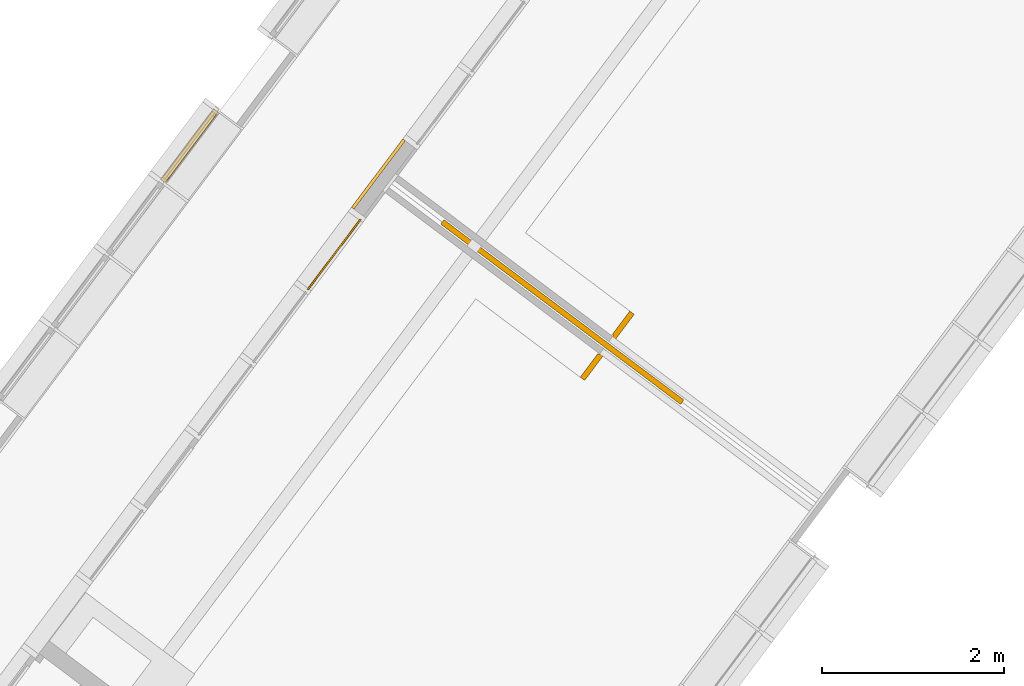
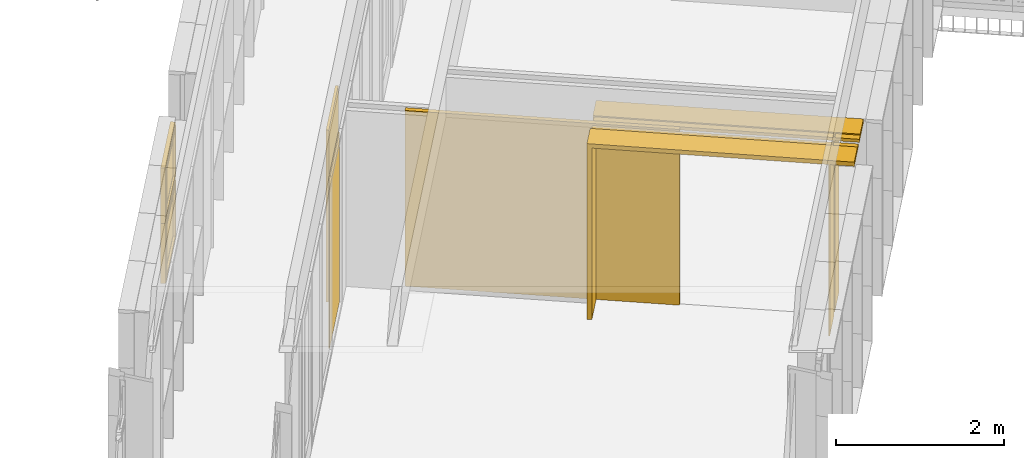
# One storey, part 190 of 243: 3 windows, 1 curtain wall, 1 door, 2 elements without a shape of their own.
"""IFC2X3 building model written with IfcOpenShell, lengths in metres."""

from ifc_helpers import new_model, entity, si_unit, converted_unit, derived_unit, direction, frame, frame_2d, origin, origin_2d_with_axis, place, context, subcontext, project, spatial, rectangle, extrude, faceted_brep, source, transform, mapped, material, material_list, layer, layer_set, layer_usage, type_object, type_shapes, element, aggregate, save


model = new_model("IFC2X3")

# Units and contexts
model_context = context("Model", 3, precision=1e-05, world=origin(), true_north=direction((6.123031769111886e-17, 1.0)))
body_context = subcontext(model_context, "Body", "Model", "MODEL_VIEW")
ifc_project = project(units=[si_unit("LENGTHUNIT", "METRE"), si_unit("AREAUNIT", "SQUARE_METRE"), si_unit("VOLUMEUNIT", "CUBIC_METRE"), converted_unit("PLANEANGLEUNIT", "DEGREE", entity("IfcRatioMeasure", 0.017453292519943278), si_unit("PLANEANGLEUNIT", "RADIAN"), dimensions=[0, 0, 0, 0, 0, 0, 0]), si_unit("MASSUNIT", "GRAM", prefix="KILO"), derived_unit("MASSDENSITYUNIT", [(si_unit("MASSUNIT", "GRAM", prefix="KILO"), 1), (si_unit("LENGTHUNIT", "METRE"), -3)]), derived_unit("IONCONCENTRATIONUNIT", [(si_unit("MASSUNIT", "GRAM", prefix="KILO"), 1), (si_unit("LENGTHUNIT", "METRE"), -3)]), derived_unit("MOMENTOFINERTIAUNIT", [(si_unit("LENGTHUNIT", "METRE"), 4)]), si_unit("TIMEUNIT", "SECOND"), si_unit("FREQUENCYUNIT", "HERTZ"), si_unit("THERMODYNAMICTEMPERATUREUNIT", "DEGREE_CELSIUS"), derived_unit("THERMALTRANSMITTANCEUNIT", [(si_unit("MASSUNIT", "GRAM", prefix="KILO"), 1), (si_unit("THERMODYNAMICTEMPERATUREUNIT", "KELVIN"), -1), (si_unit("TIMEUNIT", "SECOND"), -3)]), derived_unit("THERMALCONDUCTANCEUNIT", [(si_unit("MASSUNIT", "GRAM", prefix="KILO"), 1), (si_unit("THERMODYNAMICTEMPERATUREUNIT", "KELVIN"), -1), (si_unit("TIMEUNIT", "SECOND"), -3), (si_unit("LENGTHUNIT", "METRE"), 1)]), derived_unit("VOLUMETRICFLOWRATEUNIT", [(si_unit("LENGTHUNIT", "METRE"), 3), (si_unit("TIMEUNIT", "SECOND"), -1)]), derived_unit("MASSFLOWRATEUNIT", [(si_unit("MASSUNIT", "GRAM", prefix="KILO"), 1), (si_unit("TIMEUNIT", "SECOND"), -1)]), derived_unit("ROTATIONALFREQUENCYUNIT", [(si_unit("TIMEUNIT", "SECOND"), -1)]), si_unit("ELECTRICCURRENTUNIT", "AMPERE"), si_unit("ELECTRICVOLTAGEUNIT", "VOLT"), si_unit("POWERUNIT", "WATT"), si_unit("FORCEUNIT", "NEWTON", prefix="KILO"), si_unit("ILLUMINANCEUNIT", "LUX"), si_unit("LUMINOUSFLUXUNIT", "LUMEN"), si_unit("LUMINOUSINTENSITYUNIT", "CANDELA"), derived_unit("USERDEFINED", [(si_unit("MASSUNIT", "GRAM", prefix="KILO"), -1), (si_unit("LENGTHUNIT", "METRE"), -2), (si_unit("TIMEUNIT", "SECOND"), 3), (si_unit("LUMINOUSFLUXUNIT", "LUMEN"), 1)]), derived_unit("USERDEFINED", [(si_unit("MASSUNIT", "GRAM", prefix="KILO"), 1), (si_unit("TIMEUNIT", "SECOND"), -3), (si_unit("LENGTHUNIT", "METRE"), 3), (si_unit("ELECTRICCURRENTUNIT", "AMPERE"), -2)]), derived_unit("SOUNDPOWERUNIT", [(si_unit("MASSUNIT", "GRAM", prefix="KILO"), 1), (si_unit("TIMEUNIT", "SECOND"), -3), (si_unit("LENGTHUNIT", "METRE"), 2)]), derived_unit("SOUNDPRESSUREUNIT", [(si_unit("MASSUNIT", "GRAM", prefix="KILO"), 1), (si_unit("LENGTHUNIT", "METRE"), -1), (si_unit("TIMEUNIT", "SECOND"), -2)]), derived_unit("LINEARVELOCITYUNIT", [(si_unit("LENGTHUNIT", "METRE"), 1), (si_unit("TIMEUNIT", "SECOND"), -1)]), si_unit("PRESSUREUNIT", "PASCAL"), derived_unit("USERDEFINED", [(si_unit("MASSUNIT", "GRAM", prefix="KILO"), 1), (si_unit("LENGTHUNIT", "METRE"), -2), (si_unit("TIMEUNIT", "SECOND"), -2)]), derived_unit("LINEARFORCEUNIT", [(si_unit("MASSUNIT", "GRAM", prefix="KILO"), 1), (si_unit("TIMEUNIT", "SECOND"), -2)]), derived_unit("PLANARFORCEUNIT", [(si_unit("MASSUNIT", "GRAM", prefix="KILO"), 1), (si_unit("LENGTHUNIT", "METRE"), -1), (si_unit("TIMEUNIT", "SECOND"), -2)]), derived_unit("SPECIFICHEATCAPACITYUNIT", [(si_unit("THERMODYNAMICTEMPERATUREUNIT", "KELVIN"), -1), (si_unit("LENGTHUNIT", "METRE"), 2), (si_unit("TIMEUNIT", "SECOND"), -2)]), derived_unit("HEATINGVALUEUNIT", [(si_unit("LENGTHUNIT", "METRE"), 2), (si_unit("TIMEUNIT", "SECOND"), -2)]), derived_unit("VAPORPERMEABILITYUNIT", [(si_unit("LENGTHUNIT", "METRE"), -1), (si_unit("TIMEUNIT", "SECOND"), 1)]), derived_unit("DYNAMICVISCOSITYUNIT", [(si_unit("MASSUNIT", "GRAM", prefix="KILO"), 1), (si_unit("TIMEUNIT", "SECOND"), -1), (si_unit("LENGTHUNIT", "METRE"), -1)]), derived_unit("THERMALEXPANSIONCOEFFICIENTUNIT", [(si_unit("THERMODYNAMICTEMPERATUREUNIT", "KELVIN"), -1)]), derived_unit("MODULUSOFELASTICITYUNIT", [(si_unit("MASSUNIT", "GRAM", prefix="KILO"), 1), (si_unit("LENGTHUNIT", "METRE"), -1), (si_unit("TIMEUNIT", "SECOND"), -2)]), derived_unit("ISOTHERMALMOISTURECAPACITYUNIT", [(si_unit("LENGTHUNIT", "METRE"), 3), (si_unit("MASSUNIT", "GRAM", prefix="KILO"), -1)]), derived_unit("MOISTUREDIFFUSIVITYUNIT", [(si_unit("TIMEUNIT", "SECOND"), -1), (si_unit("LENGTHUNIT", "METRE"), 2)])], contexts=[model_context])

# Site, building, storey
site_placement = place(None, frame((0.0, 0.0, 235.0), z_axis=(0.0, 0.0, 1.0), x_axis=(-0.7996477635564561, 0.6004693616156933, 0.0)))
site = spatial("IfcSite", under=ifc_project, at=site_placement, Name="Default", CompositionType="ELEMENT")
building_placement = place(site_placement, origin())
building = spatial("IfcBuilding", under=site, at=building_placement, CompositionType="ELEMENT")
storey_placement = place(building_placement, origin())
storey = spatial("IfcBuildingStorey", under=building, at=storey_placement, Name="P0- Escola", CompositionType="ELEMENT", Elevation=0.0)

# Curtain walls, window
curtain_wall_type_1 = type_object("IfcCurtainWallType", Name="Muro cortina:MC- INT- a1", PredefinedType="NOTDEFINED")
curtain_wall_1_placement = place(storey_placement, origin())
curtain_wall_1 = element("IfcCurtainWall", 1, at=curtain_wall_1_placement, inside=storey, type_object=curtain_wall_type_1, Name="Muro cortina:MC- INT- a1", ObjectType="Muro cortina:MC- INT- a1")
ifc_material_1 = material(Name="_Fusta massisa- T1-  REV- PAV")
ifc_layer_1 = layer(ifc_material_1, 0.015)
ifc_material_2 = material(Name="_Genèric perfils, muntants, rastrells")
ifc_layer_2 = layer(ifc_material_2, 0.02)
ifc_layer_set = layer_set([ifc_layer_1, ifc_layer_2], Name="Muro básico:REV- Fusta- T1- 3,5 cm")
ifc_layer_usage = layer_usage(ifc_layer_set, "AXIS2", "NEGATIVE", 0.0175)
curtain_wall_type_2 = type_object("IfcCurtainWallType", Name="Muro básico:REV- Fusta- T1- 3,5 cm", PredefinedType="NOTDEFINED", material=ifc_layer_set)
curtain_wall_2_placement = place(storey_placement, frame((47.46264768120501, -29.445189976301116, 0.0), z_axis=(0.0, 0.0, 1.0), x_axis=(0.0, -1.0, 0.0)))
curtain_wall_2 = element("IfcCurtainWall", 2, at=curtain_wall_2_placement, type_object=curtain_wall_type_2, material=ifc_layer_usage, Name="Muro básico:REV- Fusta- T1- 3,5 cm", ObjectType="Muro básico:REV- Fusta- T1- 3,5 cm", context=body_context, shape_type="SweptSolid", body=[
    extrude(rectangle(XDim=0.03500000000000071, YDim=0.9399999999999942, at=frame_2d((-4.331604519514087e-15, 0.0), x_axis=(1.0, 0.0))), frame((0.4699999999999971, 0.0, 0.0), z_axis=(0.0, 0.0, 1.0), x_axis=(0.0, 1.0, 0.0)), (0.0, 0.0, 1.0), 2.5050000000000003),
])
ifc_material_3 = material(Name="_Vidre")
window_style_1 = type_object("IfcWindowStyle", Name="MC- Fusta- vidre fix:MC- Fusta- vidre fix", ConstructionType="NOTDEFINED", OperationType="NOTDEFINED", ParameterTakesPrecedence=False, Sizeable=False, material=ifc_material_3)
shared_shape_1 = source(origin(), body_context, "Body", "SweptSolid", [
    extrude(rectangle(XDim=0.9699999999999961, YDim=0.015999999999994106, at=origin_2d_with_axis()), frame((0.0, 0.0, 0.0), z_axis=(0.0, 0.0, 1.0), x_axis=(-1.0, 0.0, 0.0)), (0.0, 0.0, 1.0), 2.475),
])
type_shapes(window_style_1, [shared_shape_1])
window_1_placement = place(curtain_wall_1_placement, frame((47.32014768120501, -28.915189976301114, 0.045000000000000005), z_axis=(0.0, 0.0, 1.0), x_axis=(0.0, -1.0, 0.0)))
window_1 = element("IfcWindow", 3, at=window_1_placement, type_object=window_style_1, material=ifc_material_3, Name="MC- Fusta- vidre fix:MC- Fusta- vidre fix", ObjectType="MC- Fusta- vidre fix:MC- Fusta- vidre fix", OverallHeight=2.475, OverallWidth=0.9699999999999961, context=body_context, shape_type="MappedRepresentation", body=[
    mapped(shared_shape_1, transform((0.0, 0.0, 0.0), scale=1.0)),
])
aggregate(curtain_wall_1, [window_1, curtain_wall_2])

# Curtain wall, windows
curtain_wall_type_3 = type_object("IfcCurtainWallType", Name="Muro cortina:MC- EXT- MC5", PredefinedType="NOTDEFINED")
curtain_wall_3_placement = place(storey_placement, origin())
curtain_wall_3 = element("IfcCurtainWall", 4, at=curtain_wall_3_placement, inside=storey, type_object=curtain_wall_type_3, Name="Muro cortina:MC- EXT- MC5", ObjectType="Muro cortina:MC- EXT- MC5")
ifc_material_4 = material(Name="_Alumini- T1- Perfil")
ifc_material_list_1 = material_list([ifc_material_3, ifc_material_4])
window_style_2 = type_object("IfcWindowStyle", Name="MC- Alu- Conjunt finestra basculant- 68x68 cm:MC- Alu- Conjunt finestra basculant- 68x68 cm", ConstructionType="NOTDEFINED", OperationType="NOTDEFINED", ParameterTakesPrecedence=False, Sizeable=False, material=ifc_material_list_1)
shared_shape_2 = source(origin(), body_context, "Body", "Brep", [
    faceted_brep([(-0.43291170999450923, -0.03559830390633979, 0.051999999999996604), (-0.43291170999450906, -0.011598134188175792, 0.051999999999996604), (0.43291170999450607, -0.011598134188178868, 0.051999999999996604), (0.43291170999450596, -0.03559830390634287, 0.051999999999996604), (-0.43291170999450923, -0.03559830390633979, 0.8228027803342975), (-0.4329117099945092, -0.011598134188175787, 0.8228027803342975), (0.43291170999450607, -0.011598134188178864, 0.8228027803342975), (0.43291170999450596, -0.03559830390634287, 0.8228027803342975)], [[[0, 1, 2, 3]], [[4, 5, 1, 0]], [[5, 6, 2, 1]], [[6, 7, 3, 2]], [[7, 4, 0, 3]], [[4, 7, 6, 5]]]),
    faceted_brep([(0.4172108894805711, -0.009998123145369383, 0.8071019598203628), (0.4172108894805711, -0.007998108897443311, 0.8071019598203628), (0.4172108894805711, -0.007998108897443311, 0.06789804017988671), (0.4172108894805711, -0.009998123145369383, 0.06789804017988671), (0.44610892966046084, -0.007998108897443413, 0.8360000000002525), (0.44610892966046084, -0.007998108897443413, 0.03899999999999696), (-0.44610892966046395, -0.007998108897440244, 0.03899999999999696), (-0.44610892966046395, -0.007998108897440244, 0.8360000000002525), (-0.4172108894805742, -0.007998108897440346, 0.8071019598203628), (-0.4172108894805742, -0.007998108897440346, 0.06789804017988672), (-0.4172108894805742, -0.009998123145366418, 0.06789804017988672), (-0.4172108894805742, -0.009998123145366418, 0.8071019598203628), (-0.4329117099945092, -0.00999812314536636, 0.8228027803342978), (-0.4329117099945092, -0.009998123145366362, 0.05219721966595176), (0.43291170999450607, -0.009998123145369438, 0.052197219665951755), (0.43291170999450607, -0.009998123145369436, 0.8228027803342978), (0.4329117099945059, -0.04079986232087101, 0.8228027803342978), (0.4329117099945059, -0.04079986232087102, 0.052197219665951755), (-0.4329117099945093, -0.04079986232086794, 0.05219721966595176), (-0.4329117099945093, -0.04079986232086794, 0.8228027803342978), (-0.41721088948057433, -0.040799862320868, 0.8071019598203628), (-0.41721088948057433, -0.040799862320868, 0.06789804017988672), (0.41721088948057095, -0.04079986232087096, 0.06789804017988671), (0.41721088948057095, -0.04079986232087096, 0.8071019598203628), (0.41721088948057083, -0.06800005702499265, 0.8071019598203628), (0.4172108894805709, -0.06800005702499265, 0.06789804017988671), (-0.4172108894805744, -0.0680000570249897, 0.06789804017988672), (-0.4172108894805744, -0.0680000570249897, 0.8071019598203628), (-0.4636128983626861, -0.06800005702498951, 0.8535039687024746), (-0.4636128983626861, -0.06800005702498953, 0.021496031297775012), (0.4636128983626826, -0.06800005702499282, 0.021496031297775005), (0.4636128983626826, -0.06800005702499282, 0.8535039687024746), (0.4636128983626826, -0.0645000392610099, 0.8535039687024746), (0.4636128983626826, -0.0645000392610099, 0.021496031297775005), (-0.4636128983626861, -0.06450003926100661, 0.021496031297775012), (-0.4636128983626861, -0.06450003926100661, 0.8535039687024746), (-0.44610892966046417, -0.06450003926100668, 0.8360000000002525), (-0.44610892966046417, -0.06450003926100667, 0.03899999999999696), (0.4461089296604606, -0.06450003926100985, 0.038999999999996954), (0.4461089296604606, -0.06450003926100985, 0.8360000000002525)], [[[0, 1, 2, 3]], [[4, 5, 6, 7], [8, 9, 2, 1]], [[3, 2, 9, 10]], [[0, 3, 10, 11], [12, 13, 14, 15]], [[16, 15, 14, 17]], [[17, 14, 13, 18]], [[16, 17, 18, 19], [20, 21, 22, 23]], [[24, 23, 22, 25]], [[25, 22, 21, 26]], [[24, 25, 26, 27], [28, 29, 30, 31]], [[32, 31, 30, 33]], [[33, 30, 29, 34]], [[32, 33, 34, 35], [36, 37, 38, 39]], [[4, 39, 38, 5]], [[5, 38, 37, 6]], [[10, 9, 8, 11]], [[18, 13, 12, 19]], [[26, 21, 20, 27]], [[34, 29, 28, 35]], [[6, 37, 36, 7]], [[11, 8, 1, 0]], [[19, 12, 15, 16]], [[27, 20, 23, 24]], [[35, 28, 31, 32]], [[7, 36, 39, 4]]], outer=[[True], [True, False], [True], [False, True], [True], [True], [True, False], [True], [True], [False, True], [True], [True], [True, False], [True], [True], [True], [True], [True], [True], [True], [True], [True], [True], [True], [True]]),
    faceted_brep([(-0.42219318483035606, 0.0, 0.8121931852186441), (-0.42219318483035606, -0.0040000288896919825, 0.8121931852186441), (-0.422193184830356, -0.0040000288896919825, 0.06280681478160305), (-0.42219318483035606, 0.0, 0.06280681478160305), (-0.4575998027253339, -0.0040000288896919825, 0.847599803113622), (-0.4575998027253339, -0.0040000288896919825, 0.027400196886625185), (0.4575998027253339, -0.0040000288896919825, 0.027400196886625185), (0.4575998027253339, -0.0040000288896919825, 0.847599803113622), (0.422193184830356, -0.0040000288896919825, 0.812193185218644), (0.42219318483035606, -0.0040000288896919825, 0.06280681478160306), (0.42219318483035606, 0.0, 0.06280681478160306), (0.42219318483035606, 0.0, 0.8121931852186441), (0.4849999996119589, 0.0, 0.8750000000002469), (0.48499999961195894, 0.0, 0.0), (-0.4849999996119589, 0.0, 0.0), (-0.48499999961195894, 0.0, 0.8750000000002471), (-0.48499999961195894, -0.05999999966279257, 0.8750000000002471), (-0.48499999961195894, -0.05999999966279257, 0.0), (0.48499999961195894, -0.05999999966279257, 0.0), (0.48499999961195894, -0.05999999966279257, 0.8750000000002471), (0.45759980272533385, -0.05999999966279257, 0.8475998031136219), (0.4575998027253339, -0.05999999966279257, 0.027400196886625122), (-0.45759980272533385, -0.05999999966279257, 0.027400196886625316), (-0.4575998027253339, -0.05999999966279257, 0.847599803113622)], [[[0, 1, 2, 3]], [[4, 5, 6, 7], [8, 9, 2, 1]], [[3, 2, 9, 10]], [[0, 3, 10, 11], [12, 13, 14, 15]], [[16, 15, 14, 17]], [[17, 14, 13, 18]], [[16, 17, 18, 19], [20, 21, 22, 23]], [[4, 23, 22, 5]], [[5, 22, 21, 6]], [[10, 9, 8, 11]], [[18, 13, 12, 19]], [[6, 21, 20, 7]], [[11, 8, 1, 0]], [[19, 12, 15, 16]], [[7, 20, 23, 4]]], outer=[[True], [True, False], [True], [False, True], [True], [True], [True, False], [True], [True], [True], [True], [True], [True], [True], [True]]),
])
type_shapes(window_style_2, [shared_shape_2])
window_2_placement = place(curtain_wall_3_placement, frame((49.34514768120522, -28.915191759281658, 0.8200000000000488), z_axis=(0.0, 0.0, 1.0), x_axis=(0.0, -1.0, 0.0)))
window_2 = element("IfcWindow", 5, at=window_2_placement, type_object=window_style_2, material=ifc_material_list_1, Name="MC- Alu- Conjunt finestra basculant- 68x68 cm:MC- Alu- Conjunt finestra basculant- 68x68 cm", ObjectType="MC- Alu- Conjunt finestra basculant- 68x68 cm:MC- Alu- Conjunt finestra basculant- 68x68 cm", OverallHeight=0.8750000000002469, OverallWidth=0.9699999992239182, context=body_context, shape_type="MappedRepresentation", body=[
    mapped(shared_shape_2, transform((0.0, 0.0, 0.0), scale=1.0)),
])
window_style_3 = type_object("IfcWindowStyle", Name="MC- Alu- Conjunt finestra basculant- 68x68 cm:MC- Alu- Conjunt finestra basculant- 68x68 cm", ConstructionType="NOTDEFINED", OperationType="NOTDEFINED", ParameterTakesPrecedence=False, Sizeable=False, material=ifc_material_list_1)
shared_shape_3 = source(origin(), body_context, "Body", "Brep", [
    faceted_brep([(-0.43291170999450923, -0.03559830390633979, 0.051999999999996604), (-0.43291170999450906, -0.011598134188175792, 0.051999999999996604), (0.43291170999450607, -0.011598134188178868, 0.051999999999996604), (0.43291170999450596, -0.03559830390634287, 0.051999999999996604), (-0.43291170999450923, -0.03559830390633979, 0.7565527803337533), (-0.4329117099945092, -0.011598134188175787, 0.7565527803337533), (0.43291170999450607, -0.011598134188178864, 0.7565527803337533), (0.43291170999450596, -0.03559830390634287, 0.7565527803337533)], [[[0, 1, 2, 3]], [[4, 5, 1, 0]], [[5, 6, 2, 1]], [[6, 7, 3, 2]], [[7, 4, 0, 3]], [[4, 7, 6, 5]]]),
    faceted_brep([(0.4172108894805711, -0.009998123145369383, 0.7408519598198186), (0.4172108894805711, -0.007998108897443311, 0.7408519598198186), (0.4172108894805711, -0.007998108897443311, 0.06789804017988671), (0.4172108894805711, -0.009998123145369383, 0.06789804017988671), (0.44610892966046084, -0.007998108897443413, 0.7697499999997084), (0.44610892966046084, -0.007998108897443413, 0.03899999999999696), (-0.44610892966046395, -0.007998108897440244, 0.03899999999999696), (-0.44610892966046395, -0.007998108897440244, 0.7697499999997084), (-0.4172108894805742, -0.007998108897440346, 0.7408519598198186), (-0.4172108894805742, -0.007998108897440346, 0.06789804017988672), (-0.4172108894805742, -0.009998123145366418, 0.06789804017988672), (-0.4172108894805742, -0.009998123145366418, 0.7408519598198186), (-0.4329117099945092, -0.00999812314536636, 0.7565527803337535), (-0.4329117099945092, -0.009998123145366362, 0.05219721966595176), (0.43291170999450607, -0.009998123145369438, 0.052197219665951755), (0.43291170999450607, -0.009998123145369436, 0.7565527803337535), (0.4329117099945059, -0.04079986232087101, 0.7565527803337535), (0.4329117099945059, -0.04079986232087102, 0.052197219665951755), (-0.4329117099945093, -0.04079986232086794, 0.05219721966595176), (-0.4329117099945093, -0.04079986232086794, 0.7565527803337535), (-0.41721088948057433, -0.040799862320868, 0.7408519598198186), (-0.41721088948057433, -0.040799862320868, 0.06789804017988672), (0.41721088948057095, -0.04079986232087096, 0.06789804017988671), (0.41721088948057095, -0.04079986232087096, 0.7408519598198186), (0.41721088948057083, -0.06800005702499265, 0.7408519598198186), (0.4172108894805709, -0.06800005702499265, 0.06789804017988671), (-0.4172108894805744, -0.0680000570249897, 0.06789804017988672), (-0.4172108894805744, -0.0680000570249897, 0.7408519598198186), (-0.4636128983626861, -0.06800005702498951, 0.7872539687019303), (-0.4636128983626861, -0.06800005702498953, 0.021496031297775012), (0.4636128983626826, -0.06800005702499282, 0.021496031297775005), (0.4636128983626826, -0.06800005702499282, 0.7872539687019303), (0.4636128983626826, -0.0645000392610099, 0.7872539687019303), (0.4636128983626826, -0.0645000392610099, 0.021496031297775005), (-0.4636128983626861, -0.06450003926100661, 0.021496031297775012), (-0.4636128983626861, -0.06450003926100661, 0.7872539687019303), (-0.44610892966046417, -0.06450003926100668, 0.7697499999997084), (-0.44610892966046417, -0.06450003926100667, 0.03899999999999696), (0.4461089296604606, -0.06450003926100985, 0.038999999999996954), (0.4461089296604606, -0.06450003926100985, 0.7697499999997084)], [[[0, 1, 2, 3]], [[4, 5, 6, 7], [8, 9, 2, 1]], [[3, 2, 9, 10]], [[0, 3, 10, 11], [12, 13, 14, 15]], [[16, 15, 14, 17]], [[17, 14, 13, 18]], [[16, 17, 18, 19], [20, 21, 22, 23]], [[24, 23, 22, 25]], [[25, 22, 21, 26]], [[24, 25, 26, 27], [28, 29, 30, 31]], [[32, 31, 30, 33]], [[33, 30, 29, 34]], [[32, 33, 34, 35], [36, 37, 38, 39]], [[4, 39, 38, 5]], [[5, 38, 37, 6]], [[10, 9, 8, 11]], [[18, 13, 12, 19]], [[26, 21, 20, 27]], [[34, 29, 28, 35]], [[6, 37, 36, 7]], [[11, 8, 1, 0]], [[19, 12, 15, 16]], [[27, 20, 23, 24]], [[35, 28, 31, 32]], [[7, 36, 39, 4]]], outer=[[True], [True, False], [True], [False, True], [True], [True], [True, False], [True], [True], [False, True], [True], [True], [True, False], [True], [True], [True], [True], [True], [True], [True], [True], [True], [True], [True], [True]]),
    faceted_brep([(-0.42219318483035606, 0.0, 0.7459431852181), (-0.42219318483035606, -0.0040000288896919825, 0.7459431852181), (-0.422193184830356, -0.0040000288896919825, 0.06280681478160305), (-0.42219318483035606, 0.0, 0.06280681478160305), (-0.4575998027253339, -0.0040000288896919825, 0.7813498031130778), (-0.4575998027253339, -0.0040000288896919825, 0.027400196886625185), (0.4575998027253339, -0.0040000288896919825, 0.027400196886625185), (0.4575998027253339, -0.0040000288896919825, 0.7813498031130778), (0.422193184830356, -0.0040000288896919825, 0.7459431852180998), (0.42219318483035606, -0.0040000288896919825, 0.06280681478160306), (0.42219318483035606, 0.0, 0.06280681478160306), (0.42219318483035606, 0.0, 0.7459431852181), (0.48499999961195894, 0.0, 0.8087499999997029), (0.48499999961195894, 0.0, 0.0), (-0.48499999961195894, 0.0, 0.0), (-0.48499999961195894, 0.0, 0.8087499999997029), (-0.48499999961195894, -0.05999999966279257, 0.8087499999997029), (-0.48499999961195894, -0.05999999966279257, 0.0), (0.48499999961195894, -0.05999999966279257, 0.0), (0.48499999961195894, -0.05999999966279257, 0.8087499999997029), (0.4575998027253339, -0.05999999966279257, 0.7813498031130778), (0.4575998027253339, -0.05999999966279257, 0.027400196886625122), (-0.4575998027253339, -0.05999999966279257, 0.02740019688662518), (-0.4575998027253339, -0.05999999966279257, 0.7813498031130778)], [[[0, 1, 2, 3]], [[4, 5, 6, 7], [8, 9, 2, 1]], [[3, 2, 9, 10]], [[0, 3, 10, 11], [12, 13, 14, 15]], [[16, 15, 14, 17]], [[17, 14, 13, 18]], [[16, 17, 18, 19], [20, 21, 22, 23]], [[4, 23, 22, 5]], [[5, 22, 21, 6]], [[10, 9, 8, 11]], [[18, 13, 12, 19]], [[6, 21, 20, 7]], [[11, 8, 1, 0]], [[19, 12, 15, 16]], [[7, 20, 23, 4]]], outer=[[True], [True, False], [True], [False, True], [True], [True], [True, False], [True], [True], [True], [True], [True], [True], [True], [True]]),
])
type_shapes(window_style_3, [shared_shape_3])
window_3_placement = place(curtain_wall_3_placement, frame((49.34514768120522, -28.915191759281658, 1.695000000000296), z_axis=(0.0, 0.0, 1.0), x_axis=(0.0, -1.0, 0.0)))
window_3 = element("IfcWindow", 6, at=window_3_placement, type_object=window_style_3, material=ifc_material_list_1, Name="MC- Alu- Conjunt finestra basculant- 68x68 cm:MC- Alu- Conjunt finestra basculant- 68x68 cm", ObjectType="MC- Alu- Conjunt finestra basculant- 68x68 cm:MC- Alu- Conjunt finestra basculant- 68x68 cm", OverallHeight=0.8087499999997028, OverallWidth=0.9699999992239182, context=body_context, shape_type="MappedRepresentation", body=[
    mapped(shared_shape_3, transform((0.0, 0.0, 0.0), scale=1.0)),
])
aggregate(curtain_wall_3, [window_2, window_3])

# Door
ifc_material_5 = material(Name="_Fusta massisa- T1")
ifc_material_list_2 = material_list([ifc_material_2, ifc_material_5])
door_style = type_object("IfcDoorStyle", Name="FUS- Fusta- Porta corredera aules:FUS- Fusta- Porta corredera aules", ConstructionType="NOTDEFINED", OperationType="NOTDEFINED", ParameterTakesPrecedence=False, Sizeable=False, material=ifc_material_list_2)
shared_shape_4 = source(origin(), body_context, "Body", "Brep", [
    faceted_brep([(1.0619099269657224, 0.022981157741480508, 2.560000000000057), (-2.2396091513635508, 0.022981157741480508, 2.560000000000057), (-2.239609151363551, -0.022981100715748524, 2.560000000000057), (1.0619099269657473, -0.022981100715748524, 2.560000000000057), (1.0619099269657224, 0.022981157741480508, 0.0), (1.0619099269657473, -0.022981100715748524, 0.0), (-2.239609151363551, -0.022981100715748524, 0.0), (-2.2396091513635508, 0.022981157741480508, 0.0)], [[[0, 1, 2, 3]], [[4, 5, 6, 7]], [[1, 0, 4, 7]], [[2, 1, 7, 6]], [[3, 2, 6, 5]], [[0, 3, 5, 4]]]),
    faceted_brep([(1.0619099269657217, 0.022981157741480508, 2.560000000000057), (1.061909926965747, 0.029981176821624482, 2.560000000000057), (-2.2396091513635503, 0.029981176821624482, 2.560000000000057), (-2.2396091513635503, 0.022981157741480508, 2.560000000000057), (1.0619099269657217, 0.022981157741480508, 0.0), (-2.2396091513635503, 0.022981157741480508, 0.0), (-2.2396091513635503, 0.029981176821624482, 0.0), (1.061909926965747, 0.029981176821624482, 0.0)], [[[0, 1, 2, 3]], [[4, 5, 6, 7]], [[1, 0, 4, 7]], [[2, 1, 7, 6]], [[3, 2, 6, 5]], [[0, 3, 5, 4]]]),
    faceted_brep([(1.0619099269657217, -0.029981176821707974, 2.560000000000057), (1.061909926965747, -0.022981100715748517, 2.560000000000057), (-2.239609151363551, -0.022981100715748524, 2.560000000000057), (-2.239609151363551, -0.029981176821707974, 2.560000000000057), (1.0619099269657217, -0.029981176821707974, 0.0), (-2.239609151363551, -0.029981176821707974, 0.0), (-2.239609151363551, -0.022981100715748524, 0.0), (1.061909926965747, -0.022981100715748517, 0.0)], [[[0, 1, 2, 3]], [[4, 5, 6, 7]], [[1, 0, 4, 7]], [[2, 1, 7, 6]], [[3, 2, 6, 5]], [[0, 3, 5, 4]]]),
    faceted_brep([(2.9200000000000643, 0.04799999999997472, 0.0), (2.9040000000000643, 0.04799999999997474, 0.0), (2.9040000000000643, 0.4539999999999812, 0.0), (2.9200000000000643, 0.4539999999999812, 0.0), (2.9200000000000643, 0.04799999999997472, 2.5600000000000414), (2.9040000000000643, 0.04799999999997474, 2.5600000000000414), (2.9040000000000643, 0.4539999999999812, 2.5600000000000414), (2.9200000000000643, 0.4539999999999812, 2.5600000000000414)], [[[0, 1, 2, 3]], [[4, 5, 1, 0]], [[5, 6, 2, 1]], [[6, 7, 3, 2]], [[7, 4, 0, 3]], [[4, 7, 6, 5]]]),
    faceted_brep([(2.9200000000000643, -0.04799999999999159, 2.5600000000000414), (2.9200000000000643, -0.45400000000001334, 2.5600000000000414), (2.9200000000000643, -0.45400000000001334, 0.0), (2.9200000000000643, -0.04799999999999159, 0.0), (2.9040000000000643, -0.45400000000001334, 2.5600000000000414), (2.9040000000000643, -0.45400000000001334, 0.0), (2.9040000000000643, -0.04799999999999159, 2.5600000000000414), (2.9040000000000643, -0.04799999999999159, 0.0)], [[[0, 1, 2, 3]], [[1, 4, 5, 2]], [[4, 6, 7, 5]], [[6, 0, 3, 7]], [[0, 6, 4, 1]], [[3, 2, 5, 7]]]),
    faceted_brep([(0.0, -0.4540000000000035, 0.0), (0.0, -0.1340000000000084, 0.0), (0.016000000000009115, -0.13400000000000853, 0.0), (0.01600000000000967, -0.047999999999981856, 0.0), (0.060000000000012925, -0.047999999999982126, 0.0), (0.0600000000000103, -0.45400000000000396, 0.0), (0.0, -0.4540000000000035, 2.559999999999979), (0.0, -0.1340000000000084, 2.5599999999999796), (3.2150000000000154, -0.1340000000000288, 2.559999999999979), (3.2150000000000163, -0.13400000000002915, 2.5439999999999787), (0.01600000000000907, -0.13400000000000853, 2.543999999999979), (0.016000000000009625, -0.04799999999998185, 2.543999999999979), (3.215000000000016, -0.048000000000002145, 2.5439999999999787), (3.2150000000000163, -0.04800000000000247, 2.4999999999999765), (0.06000000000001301, -0.04799999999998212, 2.499999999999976), (0.06000000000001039, -0.45400000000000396, 2.499999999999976), (3.215000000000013, -0.45400000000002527, 2.4999999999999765), (3.2150000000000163, -0.45400000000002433, 2.559999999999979)], [[[0, 1, 2, 3, 4, 5]], [[1, 0, 6, 7]], [[2, 1, 7, 8, 9, 10]], [[3, 2, 10, 11]], [[4, 3, 11, 12, 13, 14]], [[5, 4, 14, 15]], [[0, 5, 15, 16, 17, 6]], [[17, 16, 13, 12, 9, 8]], [[15, 14, 13, 16]], [[11, 10, 9, 12]], [[7, 6, 17, 8]]]),
    faceted_brep([(0.06000000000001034, 0.45399999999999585, 0.0), (0.0, 0.4539999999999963, 0.0), (0.0, 0.4539999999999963, 2.5599999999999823), (3.215000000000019, 0.4539999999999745, 2.559999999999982), (3.2150000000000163, 0.4539999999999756, 2.499999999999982), (0.0600000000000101, 0.453999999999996, 2.499999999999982), (0.060000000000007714, 0.047999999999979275, 0.0), (0.06000000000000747, 0.047999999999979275, 2.4999999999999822), (0.016000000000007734, 0.04799999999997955, 0.0), (3.2150000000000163, 0.047999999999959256, 2.4999999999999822), (3.2150000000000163, 0.04799999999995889, 2.5439999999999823), (0.01600000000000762, 0.047999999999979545, 2.5439999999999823), (0.016000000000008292, 0.1339999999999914, 0.0), (0.016000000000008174, 0.1339999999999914, 2.5439999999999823), (0.0, 0.1339999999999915, 0.0), (3.2150000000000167, 0.1339999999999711, 2.5439999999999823), (3.2150000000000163, 0.13399999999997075, 2.5599999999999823), (0.0, 0.13399999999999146, 2.559999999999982)], [[[0, 1, 2, 3, 4, 5]], [[6, 0, 5, 7]], [[8, 6, 7, 9, 10, 11]], [[12, 8, 11, 13]], [[14, 12, 13, 15, 16, 17]], [[1, 14, 17, 2]], [[2, 17, 16, 3]], [[13, 11, 10, 15]], [[7, 5, 4, 9]], [[3, 16, 15, 10, 9, 4]], [[1, 0, 6, 8, 12, 14]]]),
])
type_shapes(door_style, [shared_shape_4])
door_placement = place(storey_placement, frame((44.344147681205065, -29.916189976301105, 0.0), z_axis=(0.0, 0.0, 1.0), x_axis=(-1.0, 0.0, 0.0)))
element("IfcDoor", 7, at=door_placement, inside=storey, type_object=door_style, material=ifc_material_list_2, Name="FUS- Fusta- Porta corredera aules:FUS- Fusta- Porta corredera aules", ObjectType="FUS- Fusta- Porta corredera aules:FUS- Fusta- Porta corredera aules", OverallHeight=2.5600000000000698, OverallWidth=5.48160915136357, context=body_context, shape_type="MappedRepresentation", body=[
    mapped(shared_shape_4, transform((0.0, 0.0, 0.0), scale=1.0)),
])

save(model, "model.ifc")
